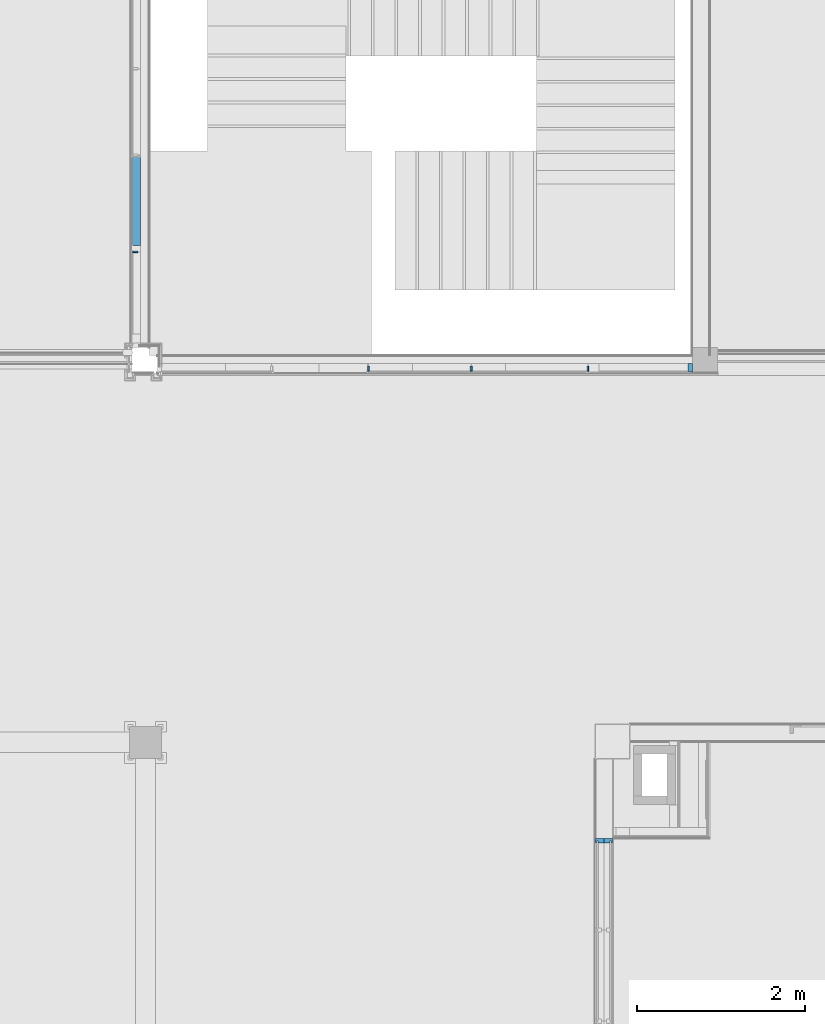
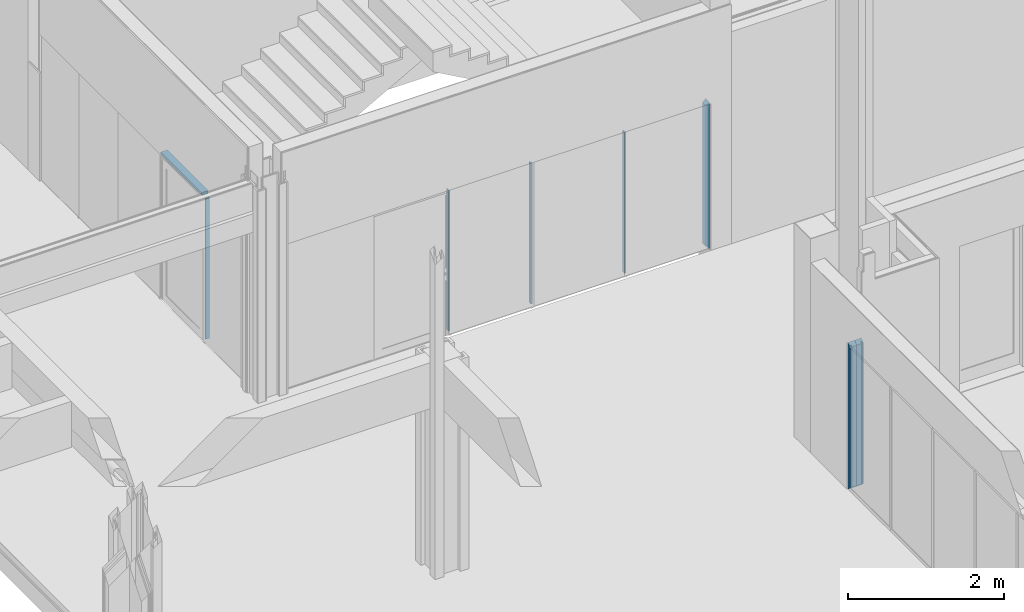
# One storey, part 4 of 139: 8 members, 4 elements without a shape of their own.
"""IFC2X3 building model written with IfcOpenShell, lengths in millimetres."""

from ifc_helpers import new_model, entity, si_unit, converted_unit, derived_unit, money_unit, direction, frame, origin_with_axes, place, context, subcontext, project, spatial, faceted_brep, source, transform, mapped, material, type_object, element, aggregate, save


model = new_model("IFC2X3")

# Units and contexts
model_context = context("Model", 3, precision=0.01, world=origin_with_axes(), true_north=direction((0.0, 1.0)))
body_context = subcontext(model_context, "Body", "Model", "MODEL_VIEW")
ifc_project = project(units=[si_unit("LENGTHUNIT", "METRE", prefix="MILLI"), si_unit("AREAUNIT", "SQUARE_METRE"), si_unit("VOLUMEUNIT", "CUBIC_METRE"), converted_unit("PLANEANGLEUNIT", "DEGREE", entity("IfcPlaneAngleMeasure", 0.0174532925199), si_unit("PLANEANGLEUNIT", "RADIAN"), dimensions=[0, 0, 0, 0, 0, 0, 0]), money_unit("EUR"), converted_unit("TIMEUNIT", "Year", entity("IfcTimeMeasure", 31556926.0), si_unit("TIMEUNIT", "SECOND"), dimensions=[0, 0, 1, 0, 0, 0, 0]), si_unit("MASSUNIT", "GRAM", prefix="KILO"), si_unit("THERMODYNAMICTEMPERATUREUNIT", "DEGREE_CELSIUS"), si_unit("LUMINOUSINTENSITYUNIT", "LUMEN"), si_unit("ENERGYUNIT", "JOULE", prefix="MEGA"), derived_unit("THERMALCONDUCTANCEUNIT", [(si_unit("POWERUNIT", "WATT"), 1), (si_unit("LENGTHUNIT", "METRE"), -1), (si_unit("THERMODYNAMICTEMPERATUREUNIT", "KELVIN"), -1)]), derived_unit("SPECIFICHEATCAPACITYUNIT", [(si_unit("ENERGYUNIT", "JOULE"), 1), (si_unit("MASSUNIT", "GRAM", prefix="KILO"), -1), (si_unit("THERMODYNAMICTEMPERATUREUNIT", "KELVIN"), -1)]), derived_unit("MASSDENSITYUNIT", [(si_unit("MASSUNIT", "GRAM", prefix="KILO"), 1), (si_unit("VOLUMEUNIT", "CUBIC_METRE"), -1)])], contexts=[model_context])

# Site, building, storey
site_placement = place(None, origin_with_axes())
site = spatial("IfcSite", under=ifc_project, at=site_placement, Name="Kolde pst 67a", CompositionType="ELEMENT")
building_placement = place(site_placement, origin_with_axes())
building = spatial("IfcBuilding", under=site, at=building_placement, Name="Riigigümnaasium", CompositionType="ELEMENT")
storey_placement = place(building_placement, frame((0.0, 0.0, 4600.0), z_axis=(0.0, 0.0, 1.0), x_axis=(1.0, 0.0, 0.0)))
storey = spatial("IfcBuildingStorey", under=building, at=storey_placement, Name="2. korrus", CompositionType="ELEMENT", Elevation=4600.0)

# Curtain wall, member
curtain_wall_type = type_object("IfcCurtainWallType", Name="Curtain Wall Type", PredefinedType="NOTDEFINED")
curtain_wall_1_placement = place(storey_placement, frame((56010.5010848, 28629.9996643, -9.132059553e-06), z_axis=(0.0, 0.0, 1.0), x_axis=(1.0, 0.0, 0.0)))
curtain_wall_1 = element("IfcCurtainWall", 1, at=curtain_wall_1_placement, inside=storey, type_object=curtain_wall_type, Name="KLAASSEIN")
ifc_material_1 = material(Name="_GENEERILINE MATERJAL")
member_type_1 = type_object("IfcMemberType", Name="Boundary Frame 50 x 100", PredefinedType="MEMBER")
shared_shape_1 = source(origin_with_axes(), body_context, "Body", "Brep", [
    faceted_brep([(50.0, -10.0, 50.0), (50.0, -10.0, 2250.0), (50.0, -100.0, 2250.0), (50.0, -100.0, 50.0), (25.0, -10.0, 2275.0), (25.0, -10.0, 25.0), (25.0, 0.0, 2275.0), (0.0, 0.0, 2300.0), (0.0, -100.0, 2300.0), (0.0, -100.0, 0.0), (0.0, 0.0, 0.0), (25.0, 0.0, 25.0)], [[[0, 1, 2, 3]], [[4, 1, 0, 5]], [[4, 6, 7, 8, 2, 1]], [[2, 8, 9, 3]], [[5, 0, 3, 9, 10, 11]], [[11, 6, 4, 5]], [[6, 11, 10, 7]], [[8, 7, 10, 9]]]),
])
member_1_placement = place(curtain_wall_1_placement, frame((3269.55568473, 0.0, 0.0), z_axis=(0.0, 0.0, 1.0), x_axis=(1.0, 0.0, 0.0)))
member_1 = element("IfcMember", 2, at=member_1_placement, type_object=member_type_1, material=ifc_material_1, Name="RF RAAM SERV-523", ObjectType="MEMBER", context=body_context, shape_type="MappedRepresentation", body=[
    mapped(shared_shape_1, transform((0.0, 0.0, 0.0), x_axis=(-1.0, 0.0, 0.0), y_axis=(0.0, -1.0, 0.0), z_axis=(0.0, 0.0, 1.0))),
])

curtain_wall_2_placement = place(storey_placement, frame((52619.9941222, 32759.7635899, -0.000120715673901), z_axis=(0.0, 0.0, 1.0), x_axis=(1.0, 0.0, 0.0)))
curtain_wall_2 = element("IfcCurtainWall", 3, at=curtain_wall_2_placement, inside=storey, type_object=curtain_wall_type, Name="KLAASSEIN")
member_type_2 = type_object("IfcMemberType", Name="Mullion Frame 20 x 70", PredefinedType="MEMBER")
shared_shape_2 = source(origin_with_axes(), body_context, "Body", "Brep", [
    faceted_brep([(0.0, -10.0, 50.0), (-10.0, -10.0, 50.0), (-10.0, -10.0, 2250.0), (0.0, -10.0, 2250.0), (10.0, -10.0, 2250.0), (10.0, -10.0, 50.0), (10.0, -70.0, 50.0), (-10.0, -70.0, 50.0), (-10.0, -70.0, 2250.0), (10.0, -70.0, 2250.0)], [[[0, 1, 2, 3, 4, 5]], [[1, 0, 5, 6, 7]], [[2, 1, 7, 8]], [[3, 2, 8, 9, 4]], [[4, 9, 6, 5]], [[8, 7, 6, 9]]]),
])
member_2_placement = place(curtain_wall_2_placement, frame((0.0, -2703.00000311, 0.0), z_axis=(0.0, 0.0, 1.0), x_axis=(0.0, 1.0, 0.0)))
member_2 = element("IfcMember", 4, at=member_2_placement, type_object=member_type_2, material=ifc_material_1, Name="RF RAAM VERT-464", ObjectType="MEMBER", context=body_context, shape_type="MappedRepresentation", body=[
    mapped(shared_shape_2, transform((0.0, 0.0, 0.0))),
])

curtain_wall_3_placement = place(storey_placement, frame((58309.948762, 21457.499953, -9.60191526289e-05), z_axis=(0.0, 0.0, 1.0), x_axis=(1.0, 0.0, 0.0)))
curtain_wall_3 = element("IfcCurtainWall", 5, at=curtain_wall_3_placement, inside=storey, type_object=curtain_wall_type, Name="KLAASSEIN")
ifc_material_2 = material(Name="_METALL - alumiinium")
shared_shape_3 = source(origin_with_axes(), body_context, "Body", "Brep", [
    faceted_brep([(30.0, -10.0, 2270.0), (30.0, 10.0, 2270.0), (50.0, 10.0, 2250.0), (50.0, 20.0, 2250.0), (0.0, 20.0, 2300.0), (0.0, -80.0, 2300.0), (50.0, -80.0, 2250.0), (50.0, -10.0, 2250.0), (30.0, -10.0, 30.0), (30.0, 10.0, 30.0), (50.0, 10.0, 50.0), (50.0, 20.0, 50.0), (0.0, 20.0, 0.0), (0.0, -80.0, 0.0), (50.0, -80.0, 50.0), (50.0, -10.0, 50.0)], [[[0, 1, 2, 3, 4, 5, 6, 7]], [[1, 0, 8, 9]], [[10, 2, 1, 9]], [[2, 10, 11, 3]], [[4, 3, 11, 12]], [[5, 4, 12, 13]], [[6, 5, 13, 14]], [[15, 7, 6, 14]], [[0, 7, 15, 8]], [[8, 15, 14, 13, 12, 11, 10, 9]]]),
])
member_3_placement = place(curtain_wall_3_placement, frame((0.000177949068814, 1627.5, 0.0), z_axis=(0.0, 0.0, 1.0), x_axis=(1.09338905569e-07, 1.0, 0.0)))
member_3 = element("IfcMember", 6, at=member_3_placement, type_object=member_type_1, material=ifc_material_2, Name="RF RAAM SERV-710", ObjectType="MEMBER", context=body_context, shape_type="MappedRepresentation", body=[
    mapped(shared_shape_3, transform((0.0, 0.0, 0.0), x_axis=(-1.0, 0.0, 0.0), y_axis=(0.0, -1.0, 0.0), z_axis=(0.0, 0.0, 1.0))),
])
aggregate(curtain_wall_3, [member_3])

curtain_wall_4_placement = place(storey_placement, frame((58149.948335, 21457.4999721, -5.87247752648e-05), z_axis=(0.0, 0.0, 1.0), x_axis=(1.0, 0.0, 0.0)))
curtain_wall_4 = element("IfcCurtainWall", 7, at=curtain_wall_4_placement, inside=storey, type_object=curtain_wall_type, Name="KLAASSEIN")
shared_shape_4 = source(origin_with_axes(), body_context, "Body", "Brep", [
    faceted_brep([(-30.0, -10.0, 2270.00004495), (-50.0, -10.0, 2250.00004495), (-50.0, -80.0, 2250.00004495), (0.0, -80.0, 2300.00004495), (0.0, 20.0, 2300.00004495), (-50.0, 20.0, 2250.00004495), (-50.0, 10.0, 2250.00004495), (-30.0, 10.0, 2270.00004495), (-30.0, -10.0, 30.0), (-50.0, -10.0, 50.0), (-50.0, -80.0, 50.0), (0.0, -80.0, 0.0), (0.0, 20.0, 0.0), (-50.0, 20.0, 50.0), (-50.0, 10.0, 50.0), (-30.0, 10.0, 30.0)], [[[0, 1, 2, 3, 4, 5, 6, 7]], [[0, 8, 9, 1]], [[9, 10, 2, 1]], [[2, 10, 11, 3]], [[3, 11, 12, 4]], [[4, 12, 13, 5]], [[6, 5, 13, 14]], [[14, 15, 7, 6]], [[7, 15, 8, 0]], [[8, 15, 14, 13, 12, 11, 10, 9]]]),
])
member_4_placement = place(curtain_wall_4_placement, frame((-5.07503727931e-06, 1627.5, 0.0), z_axis=(0.0, 0.0, 1.0), x_axis=(-3.11830684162e-09, 1.0, 0.0)))
member_4 = element("IfcMember", 8, at=member_4_placement, type_object=member_type_1, material=ifc_material_2, Name="RF RAAM SERV-660", ObjectType="MEMBER", context=body_context, shape_type="MappedRepresentation", body=[
    mapped(shared_shape_4, transform((0.0, 0.0, 0.0))),
])
aggregate(curtain_wall_4, [member_4])

# Member
shared_shape_5 = source(origin_with_axes(), body_context, "Body", "Brep", [
    faceted_brep([(0.0, -10.0, 50.0), (-10.0, -10.0, 50.0), (-10.0, -10.0, 2250.0), (0.0, -10.0, 2250.0), (10.0, -10.0, 2250.0), (10.0, -10.0, 50.0), (10.0, -70.0, 50.0), (-10.0, -70.0, 50.0), (-10.0, -70.0, 2250.0), (10.0, -70.0, 2250.0)], [[[0, 1, 2, 3, 4, 5]], [[5, 6, 7, 1, 0]], [[2, 1, 7, 8]], [[3, 2, 8, 9, 4]], [[4, 9, 6, 5]], [[9, 8, 7, 6]]]),
])
member_5_placement = place(curtain_wall_1_placement, frame((-580.519004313, 0.0, 0.0), z_axis=(0.0, 0.0, 1.0), x_axis=(1.0, 0.0, 0.0)))
member_5 = element("IfcMember", 9, at=member_5_placement, type_object=member_type_2, material=ifc_material_1, Name="RF RAAM VERT-392", ObjectType="MEMBER", context=body_context, shape_type="MappedRepresentation", body=[
    mapped(shared_shape_5, transform((0.0, 0.0, 0.0), x_axis=(-1.0, 0.0, 0.0), y_axis=(0.0, -1.0, 0.0), z_axis=(0.0, 0.0, 1.0))),
])

member_6_placement = place(curtain_wall_1_placement, frame((2026.58211334, 0.0, 0.0), z_axis=(0.0, 0.0, 1.0), x_axis=(1.0, 0.0, 0.0)))
member_6 = element("IfcMember", 10, at=member_6_placement, type_object=member_type_2, material=ifc_material_1, Name="RF RAAM VERT-398", ObjectType="MEMBER", context=body_context, shape_type="MappedRepresentation", body=[
    mapped(shared_shape_5, transform((0.0, 0.0, 0.0), x_axis=(-1.0, 0.0, 0.0), y_axis=(0.0, -1.0, 0.0), z_axis=(0.0, 0.0, 1.0))),
])

member_7_placement = place(curtain_wall_1_placement, frame((640.963319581, 0.0, 0.0), z_axis=(0.0, 0.0, 1.0), x_axis=(1.0, 0.0, 0.0)))
member_7 = element("IfcMember", 11, at=member_7_placement, type_object=member_type_2, material=ifc_material_1, Name="RF RAAM VERT-399", ObjectType="MEMBER", context=body_context, shape_type="MappedRepresentation", body=[
    mapped(shared_shape_5, transform((0.0, 0.0, 0.0), x_axis=(-1.0, 0.0, 0.0), y_axis=(0.0, -1.0, 0.0), z_axis=(0.0, 0.0, 1.0))),
])

aggregate(curtain_wall_1, [member_1, member_5, member_6, member_7])

shared_shape_6 = source(origin_with_axes(), body_context, "Body", "Brep", [
    faceted_brep([(-50.0, -10.0, 0.0), (-50.0, -100.0, 0.0), (-50.0, -100.0, 1050.0), (-50.0, -10.0, 1050.0), (-25.0, -10.0, 0.0), (-25.0, 0.0, 0.0), (0.0, 0.0, 0.0), (0.0, -100.0, 0.0), (0.0, -100.0, 1050.0), (-25.0, -10.0, 1050.0), (0.0, 0.0, 1050.0), (-25.0, 0.0, 1050.0)], [[[0, 1, 2, 3]], [[4, 5, 6, 7, 1, 0]], [[1, 7, 8, 2]], [[9, 3, 2, 8, 10, 11]], [[9, 4, 0, 3]], [[5, 4, 9, 11]], [[11, 10, 6, 5]], [[7, 6, 10, 8]]]),
])
member_8_placement = place(curtain_wall_2_placement, frame((0.0, -1575.0, 2300.00012072), z_axis=(0.0, -1.0, 0.0), x_axis=(0.0, 0.0, 1.0)))
member_8 = element("IfcMember", 12, at=member_8_placement, type_object=member_type_1, material=ifc_material_1, Name="RF RAAM SERV-600", ObjectType="MEMBER", context=body_context, shape_type="MappedRepresentation", body=[
    mapped(shared_shape_6, transform((0.0, 0.0, 0.0))),
])

aggregate(curtain_wall_2, [member_8, member_2])

save(model, "model.ifc")
